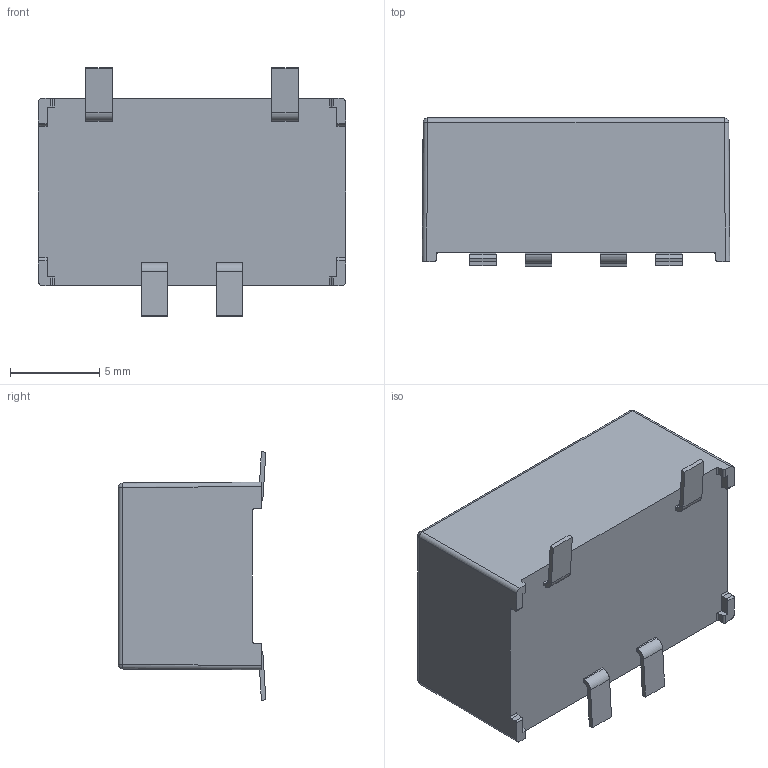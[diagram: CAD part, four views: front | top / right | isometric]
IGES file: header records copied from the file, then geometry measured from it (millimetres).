
Start section: SolidWorks IGES file using analytic representation for surfaces
Global section: file name: T:\Robert King\MARKETING\RELAY MODELS\Series 219\V4\219-1-X Website Model.IGS; native system: SolidWorks 2023; preprocessor: SolidWorks 2023; author: robert.king; date: 240410.121933; units: millimetre
Bounding box: 17.2 x 8.26 x 13.89 mm (x, y, z)
Surface area: 817.4 mm2 (no closed solid volume)
Topology: 0 solids, 0 shells, 228 faces, 1660 edges, 1656 vertices
Faces by surface type: bspline 192, revolution 36
